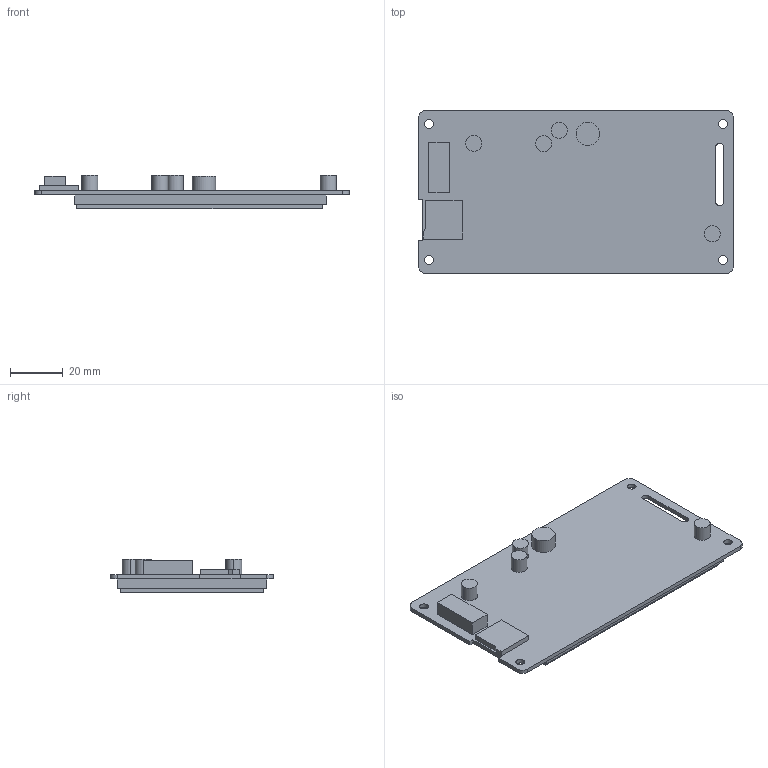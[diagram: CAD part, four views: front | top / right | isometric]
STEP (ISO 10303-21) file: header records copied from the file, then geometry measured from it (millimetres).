
FILE_DESCRIPTION((''),'2;1');
FILE_NAME('DMG80480T040-01WN-WTR','2022-04-20T',('Administrator'),(''),'PRO/ENGINEER BY PARAMETRIC TECHNOLOGY CORPORATION, 2008380','PRO/ENGINEER BY PARAMETRIC TECHNOLOGY CORPORATION, 2008380','');
FILE_SCHEMA(('CONFIG_CONTROL_DESIGN'));
Length unit declared in the file: millimetre
Products named in the file (1): DMG80480T040-01WN-WTR
Bounding box: 119.51 x 61.85 x 12.55 mm (x, y, z)
Volume: 39483.8 mm3; surface area: 26989 mm2
Topology: 1 solids, 2 shells, 69 faces, 11321 edges, 18503 vertices
Faces by surface type: plane 45, cylinder 24
Entity records: 61822 total; most frequent: DIRECTION 15456, CARTESIAN_POINT 11503, TRIMMED_CURVE 11153, VECTOR 7326, LINE 7326, AXIS2_PLACEMENT_3D 4065, CIRCLE 3995, ORIENTED_EDGE 336
